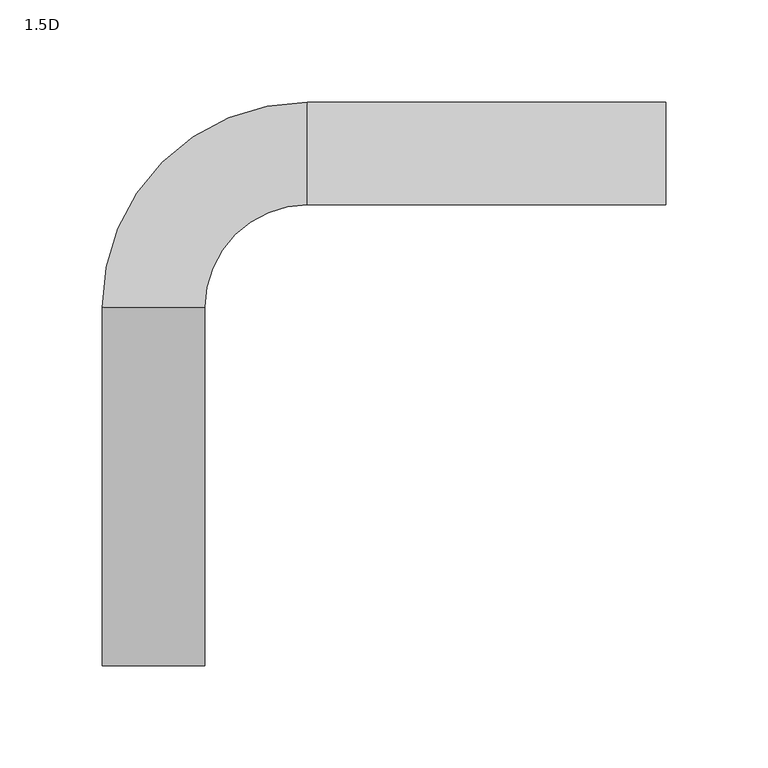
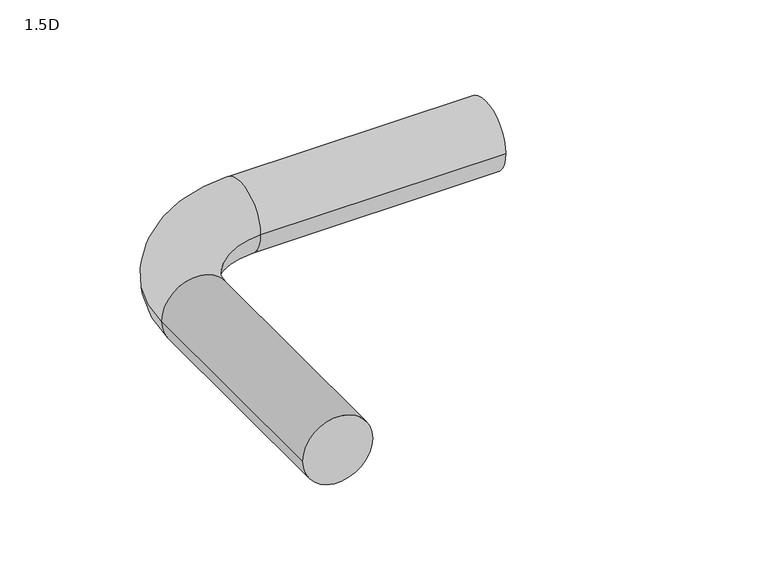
"""IFC4 building model written with IfcOpenShell, lengths in millimetres: pipe fitting geometry, Plumbing-Pipe-Fittings_Pexgol_Elbow-90-with-both-sides-plain-ends : 1.5D."""

from ifc_helpers import new_model, si_unit, point, frame, origin, place, context, project, spatial, circle_curve, ellipse_curve, trimmed, source, transform, mapped, element, save
from ifc_brep_helpers import plane_surface, cylinder_surface, revolved_surface, advanced_brep


def pipe_fitting_1_5d_a3e19622(model_context):
    return source(origin(), model_context, "Body", "AdvancedBrep", [
        advanced_brep(
        [(250.0, 25.0, 0.0), (250.0, -25.0, 0.0), (75.0, 25.0, 0.0), (75.0, -25.0, 0.0), (25.0, -75.0, 0.0), (-25.0, -75.0, 0.0), (-25.0, -250.0, 0.0), (25.0, -250.0, 0.0)],
        [
            (0, 1, circle_curve(frame((250.0, 0.0, 0.0), z_axis=(1.0, 0.0, 0.0), x_axis=(0.0, -1.0, 0.0)), 25.0)),
            (1, 0, circle_curve(frame((250.0, 0.0, 0.0), z_axis=(1.0, 0.0, 0.0), x_axis=(0.0, -1.0, 0.0)), 25.0)),
            (0, 2),
            (2, 3, circle_curve(frame((75.0, 0.0, 0.0), z_axis=(1.0, 0.0, 0.0), x_axis=(0.0, -1.0, 0.0)), 25.0)),
            (3, 1),
            (3, 2, circle_curve(frame((75.0, 0.0, 0.0), z_axis=(1.0, 0.0, 0.0), x_axis=(0.0, -1.0, 0.0)), 25.0)),
            (4, 3, circle_curve(frame((75.0, -75.0, 0.0), z_axis=(0.0, 0.0, -1.0), x_axis=(0.0, 1.0, 0.0)), 50.0)),
            (2, 5, circle_curve(frame((75.0, -75.0, 0.0), z_axis=(0.0, 0.0, 1.0), x_axis=(0.0, 1.0, 0.0)), 100.0)),
            (5, 4, circle_curve(frame((0.0, -75.0, 0.0), z_axis=(0.0, 1.0, 0.0), x_axis=(1.0, 0.0, 0.0)), 25.0)),
            (4, 5, circle_curve(frame((0.0, -75.0, 0.0), z_axis=(0.0, 1.0, 0.0), x_axis=(1.0, 0.0, 0.0)), 25.0)),
            (6, 7, circle_curve(frame((0.0, -250.0, 0.0), z_axis=(0.0, -1.0, 0.0), x_axis=(1.0, 0.0, 0.0)), 25.0)),
            (7, 6, circle_curve(frame((0.0, -250.0, 0.0), z_axis=(0.0, -1.0, 0.0), x_axis=(1.0, 0.0, 0.0)), 25.0)),
            (5, 6),
            (7, 4),
        ],
        [
            plane_surface(frame((250.0, 0.0, 0.0), z_axis=(1.0, 0.0, 0.0), x_axis=(0.0, 0.0, 1.0))),
            cylinder_surface(frame((250.0, 0.0, 0.0), z_axis=(1.0, 0.0, 0.0), x_axis=(0.0, -1.0, 0.0)), 25.0),
            revolved_surface(trimmed(ellipse_curve(frame((75.0, 0.0, 0.0), z_axis=(1.0, 0.0, 0.0), x_axis=(0.0, -1.0, 0.0)), 25.0, 25.0), [point((75.0, 25.0, 0.0))], [point((75.0, -25.0, 0.0))], True, "CARTESIAN"), (75.0, -75.0, 0.0), (0.0, 0.0, 1.0)),
            revolved_surface(trimmed(ellipse_curve(frame((75.0, 0.0, 0.0), z_axis=(1.0, 0.0, 0.0), x_axis=(0.0, -1.0, 0.0)), 25.0, 25.0), [point((75.0, -25.0, 0.0))], [point((75.0, 25.0, 0.0))], True, "CARTESIAN"), (75.0, -75.0, 0.0), (0.0, 0.0, 1.0)),
            plane_surface(frame((0.0, -250.0, 0.0), z_axis=(0.0, -1.0, 0.0), x_axis=(0.0, 0.0, 1.0))),
            cylinder_surface(frame((0.0, -75.0, 0.0), z_axis=(0.0, 1.0, 0.0), x_axis=(1.0, 0.0, 0.0)), 25.0),
        ],
        [
            (0, [[1, 2]]),
            (1, [[-1, 3, 4, 5]]),
            (1, [[-2, -5, 6, -3]]),
            (2, [[7, -4, 8, 9]]),
            (3, [[-8, -6, -7, 10]]),
            (4, [[11, 12]]),
            (5, [[-9, 13, -12, 14]]),
            (5, [[-10, -14, -11, -13]]),
        ],
    ),
    ])


if __name__ == "__main__":
    model = new_model("IFC4")
    model_context = context("Model", 3, world=origin())
    ifc_project = project(units=[si_unit("LENGTHUNIT", "METRE", prefix="MILLI")], contexts=[model_context])
    site = spatial("IfcSite", under=ifc_project)
    building = spatial("IfcBuilding", under=site)
    placement = place(None, origin())
    pipe_fitting_1_5d_shape = pipe_fitting_1_5d_a3e19622(model_context)
    element("IfcPipeFitting", 1, ObjectType="Plumbing-Pipe-Fittings_Pexgol_Elbow-90-with-both-sides-plain-ends : 1.5D", at=placement, inside=building, context=model_context, shape_type="MappedRepresentation", body=[
        mapped(pipe_fitting_1_5d_shape, transform((0.0, 0.0, 0.0), x_axis=(1.0, 0.0, 0.0), y_axis=(0.0, 1.0, 0.0), z_axis=(0.0, 0.0, 1.0))),
    ])
    save(model, "model.ifc")
